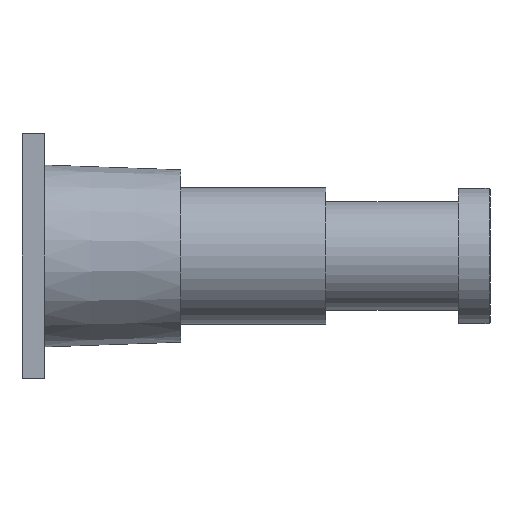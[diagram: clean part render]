
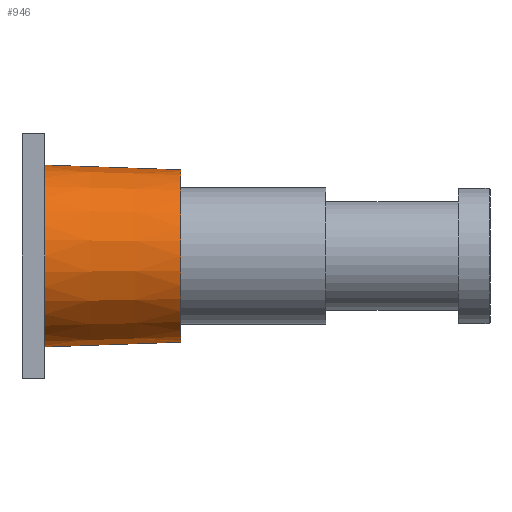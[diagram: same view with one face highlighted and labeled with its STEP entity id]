
A CAD part, front view. The second image highlights one B-rep face of the part: STEP entity #946.
In plain terms, the highlighted conical face has half-angle 2 degrees and reference radius 95 mm.
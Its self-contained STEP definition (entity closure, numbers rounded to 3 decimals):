
#16 = VERTEX_POINT ( 'NONE', #1148 ) ;
#19 = EDGE_CURVE ( 'NONE', #339, #16, #353, .T. ) ;
#28 = CARTESIAN_POINT ( 'NONE',  ( 0., 0., 100.238 ) ) ;
#89 = DIRECTION ( 'NONE',  ( 0., 0., -1. ) ) ;
#116 = FACE_OUTER_BOUND ( 'NONE', #1106, .T. ) ;
#127 = ORIENTED_EDGE ( 'NONE', *, *, #1065, .T. ) ;
#130 = DIRECTION ( 'NONE',  ( -1., 0., 0. ) ) ;
#144 = CARTESIAN_POINT ( 'NONE',  ( 150., 0., 0. ) ) ;
#166 = CONICAL_SURFACE ( 'NONE', #1104, 95., 0.035 ) ;
#174 = ORIENTED_EDGE ( 'NONE', *, *, #1180, .T. ) ;
#339 = VERTEX_POINT ( 'NONE', #714 ) ;
#353 = LINE ( 'NONE', #453, #367 ) ;
#367 = VECTOR ( 'NONE', #434, 1000. ) ;
#423 = CIRCLE ( 'NONE', #700, 100.238 ) ;
#434 = DIRECTION ( 'NONE',  ( -0.999, 0., -0.035 ) ) ;
#453 = CARTESIAN_POINT ( 'NONE',  ( 150., 0., -95. ) ) ;
#461 = EDGE_CURVE ( 'NONE', #590, #339, #621, .T. ) ;
#499 = DIRECTION ( 'NONE',  ( 0., 0., -1. ) ) ;
#519 = DIRECTION ( 'NONE',  ( 1., 0., 0. ) ) ;
#537 = DIRECTION ( 'NONE',  ( 0., 0., -1. ) ) ;
#549 = DIRECTION ( 'NONE',  ( 1., 0., 0. ) ) ;
#557 = CARTESIAN_POINT ( 'NONE',  ( 150., 0., 0. ) ) ;
#590 = VERTEX_POINT ( 'NONE', #1145 ) ;
#621 = CIRCLE ( 'NONE', #842, 95. ) ;
#626 = VERTEX_POINT ( 'NONE', #28 ) ;
#685 = CARTESIAN_POINT ( 'NONE',  ( 0., 0., 0. ) ) ;
#700 = AXIS2_PLACEMENT_3D ( 'NONE', #685, #519, #499 ) ;
#714 = CARTESIAN_POINT ( 'NONE',  ( 150., 0., -95. ) ) ;
#738 = ORIENTED_EDGE ( 'NONE', *, *, #19, .F. ) ;
#741 = VECTOR ( 'NONE', #965, 1000. ) ;
#842 = AXIS2_PLACEMENT_3D ( 'NONE', #557, #549, #537 ) ;
#927 = ORIENTED_EDGE ( 'NONE', *, *, #461, .F. ) ;
#932 = LINE ( 'NONE', #956, #741 ) ;
#946 = ADVANCED_FACE ( 'NONE', ( #116 ), #166, .T. ) ;
#956 = CARTESIAN_POINT ( 'NONE',  ( 150., 0., 95. ) ) ;
#965 = DIRECTION ( 'NONE',  ( -0.999, 0., 0.035 ) ) ;
#1065 = EDGE_CURVE ( 'NONE', #626, #16, #423, .T. ) ;
#1104 = AXIS2_PLACEMENT_3D ( 'NONE', #144, #130, #89 ) ;
#1106 = EDGE_LOOP ( 'NONE', ( #927, #174, #127, #738 ) ) ;
#1145 = CARTESIAN_POINT ( 'NONE',  ( 150., 0., 95. ) ) ;
#1148 = CARTESIAN_POINT ( 'NONE',  ( 0., 0., -100.238 ) ) ;
#1180 = EDGE_CURVE ( 'NONE', #590, #626, #932, .T. ) ;
